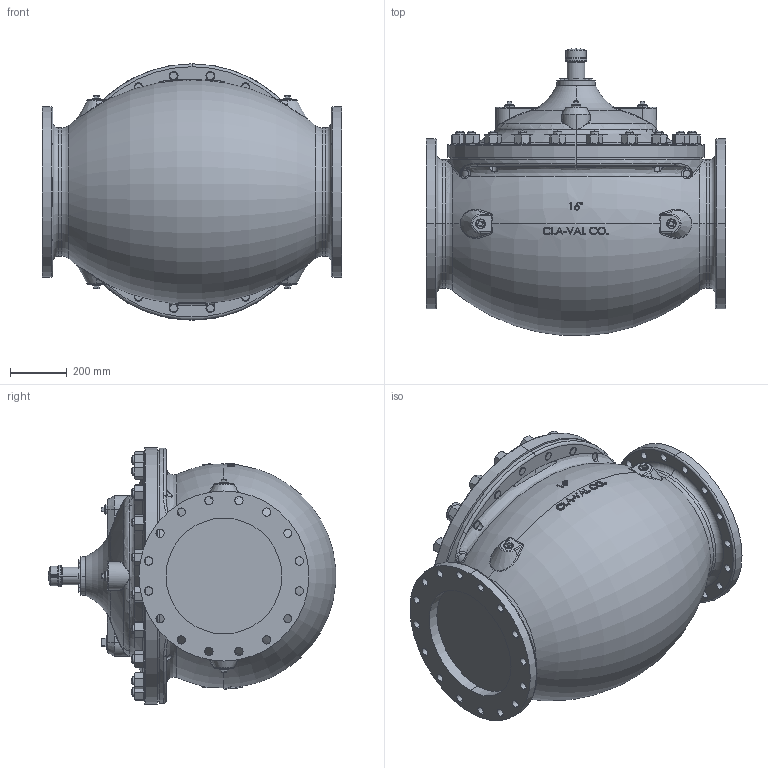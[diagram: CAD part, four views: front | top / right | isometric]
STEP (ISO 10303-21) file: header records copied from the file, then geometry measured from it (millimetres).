
FILE_DESCRIPTION (( 'STEP AP203' ), '1' );
FILE_NAME ('16in Hytrol 150AG.STEP', '2017-02-15T17:33:27', ( '' ), ( '' ), 'SwSTEP 2.0', 'SolidWorks 2017', '' );
FILE_SCHEMA (( 'CONFIG_CONTROL_DESIGN' ));
Length unit declared in the file: inch
Products named in the file (13): 16in Hytrol 150AG; 1.0 NPT SQ HD PIPE PLUG (67660)_STEEL CAD PLT; 1.0 NPT SQ HD PIPE PLUG (67660)_18-8 SST; Diaphragm, 16in 100-01, 150 (.188 thk); WASHER, PLAIN FLAT FOR 1.250 SCREW (67757)_1.250N   67757-04H; 16in Housing, Cover Bearing; 16in Body HyGl150 STD (BLUE)_Default 150LB FLAT FACE; Bolt .375-16 UNC  (67605)_1.25   67605-07B; 16in Cover 100-01 (BLUE)_THREE BOSSES 1 NPT  AND ONE 1.5NPT, NO SPOTFACE; Cap, Pipe, NPT (74019)_2in NPT BRONZE; STUD 1.250-7 UNC (42786)_18-8 SST 4.90 LG; 1.5 NPT SQ HD PIPE PLUG (67660)_STEEL CP; Hexnut 1.250-7 UNC (67820)_ASH-316 SST
Assembly tree (81 placements, depth 2):
  16in Hytrol 150AG
    16in Body HyGl150 STD (BLUE)_Default 150LB FLAT FACE
    16in Cover 100-01 (BLUE)_THREE BOSSES 1 NPT  AND ONE 1.5NPT, NO SPOTFACE
    STUD 1.250-7 UNC (42786)_18-8 SST 4.90 LG  x20
    Hexnut 1.250-7 UNC (67820)_ASH-316 SST  x20
    1.0 NPT SQ HD PIPE PLUG (67660)_STEEL CAD PLT  x4
    1.0 NPT SQ HD PIPE PLUG (67660)_18-8 SST  x3
    Diaphragm, 16in 100-01, 150 (.188 thk)
    WASHER, PLAIN FLAT FOR 1.250 SCREW (67757)_1.250N   67757-04H  x20
    16in Housing, Cover Bearing
    Bolt .375-16 UNC  (67605)_1.25   67605-07B  x8
    Cap, Pipe, NPT (74019)_2in NPT BRONZE
    1.5 NPT SQ HD PIPE PLUG (67660)_STEEL CP
Bounding box: 1051.05 x 1007.63 x 900.18 mm (x, y, z)
Volume: 386873062.5 mm3; surface area: 7215723.3 mm2
Topology: 81 solids, 81 shells, 2696 faces, 6261 edges, 3718 vertices
Faces by surface type: cone 727, cylinder 726, plane 519, bspline 346, torus 298, sphere 80
Entity records: 78591 total; most frequent: CARTESIAN_POINT 45069, ORIENTED_EDGE 6802, DIRECTION 5599, EDGE_CURVE 3401, AXIS2_PLACEMENT_3D 2361, VERTEX_POINT 2135, EDGE_LOOP 1626, FACE_OUTER_BOUND 1353
